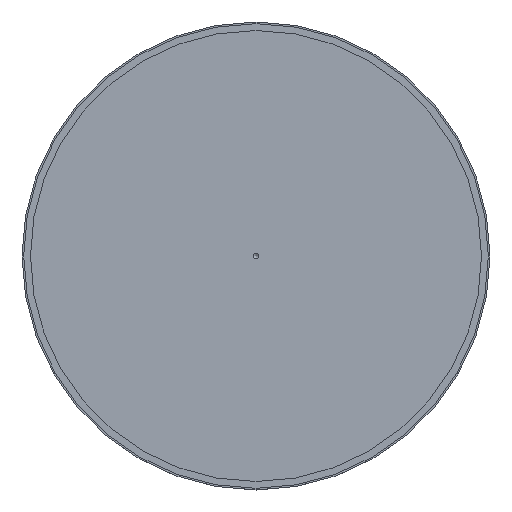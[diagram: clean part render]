
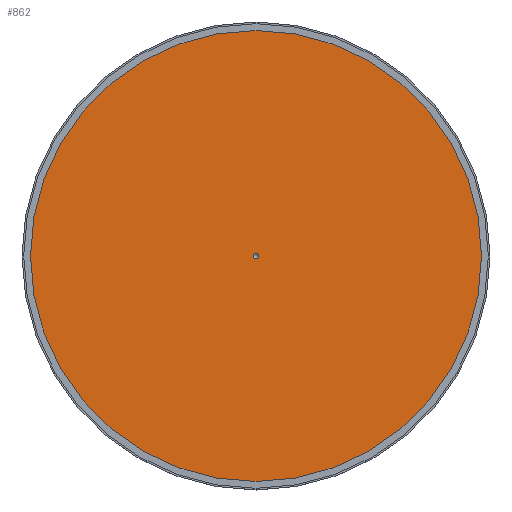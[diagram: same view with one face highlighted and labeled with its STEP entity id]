
A CAD part, top view. The second image highlights one B-rep face of the part: STEP entity #862.
In plain terms, the highlighted planar face has unit normal (0, 0, 1).
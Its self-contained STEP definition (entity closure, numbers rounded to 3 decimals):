
#272=CARTESIAN_POINT('',(-265.0,0.,17.0));
#273=VERTEX_POINT('',#272);
#282=CARTESIAN_POINT('',(265.0,0.,17.0));
#283=VERTEX_POINT('',#282);
#284=CARTESIAN_POINT('',(0.0,0.0,17.0));
#285=DIRECTION('',(0.0,0.0,1.0));
#286=DIRECTION('',(-1.0,0.0,0.0));
#287=AXIS2_PLACEMENT_3D('',#284,#285,#286);
#288=CIRCLE('',#287,265.0);
#289=EDGE_CURVE('',#283,#273,#288,.T.);
#493=CARTESIAN_POINT('',(3.324,0.0,17.0));
#494=VERTEX_POINT('',#493);
#510=CARTESIAN_POINT('',(-3.324,0.,17.0));
#511=VERTEX_POINT('',#510);
#518=CARTESIAN_POINT('',(0.0,0.0,17.0));
#519=DIRECTION('',(0.0,0.0,-1.0));
#520=DIRECTION('',(1.0,0.0,0.0));
#521=AXIS2_PLACEMENT_3D('',#518,#519,#520);
#522=CIRCLE('',#521,3.324);
#523=EDGE_CURVE('',#494,#511,#522,.T.);
#637=CARTESIAN_POINT('',(0.0,0.0,17.0));
#638=DIRECTION('',(0.0,0.0,-1.0));
#639=DIRECTION('',(1.0,0.0,0.0));
#640=AXIS2_PLACEMENT_3D('',#637,#638,#639);
#641=CIRCLE('',#640,3.324);
#642=EDGE_CURVE('',#511,#494,#641,.T.);
#769=CARTESIAN_POINT('',(0.0,0.0,17.0));
#770=DIRECTION('',(0.0,0.0,1.0));
#771=DIRECTION('',(-1.0,0.0,0.0));
#772=AXIS2_PLACEMENT_3D('',#769,#770,#771);
#773=CIRCLE('',#772,265.0);
#774=EDGE_CURVE('',#273,#283,#773,.T.);
#849=CARTESIAN_POINT('',(25.0,0.,17.0));
#850=DIRECTION('',(0.0,0.0,1.0));
#851=DIRECTION('',(1.0,0.0,0.0));
#852=AXIS2_PLACEMENT_3D('',#849,#850,#851);
#853=PLANE('',#852);
#854=ORIENTED_EDGE('',*,*,#289,.T.);
#855=ORIENTED_EDGE('',*,*,#774,.T.);
#856=EDGE_LOOP('',(#854,#855));
#857=FACE_OUTER_BOUND('',#856,.T.);
#858=ORIENTED_EDGE('',*,*,#523,.T.);
#859=ORIENTED_EDGE('',*,*,#642,.T.);
#860=EDGE_LOOP('',(#858,#859));
#861=FACE_BOUND('',#860,.T.);
#862=ADVANCED_FACE('',(#857,#861),#853,.T.);
